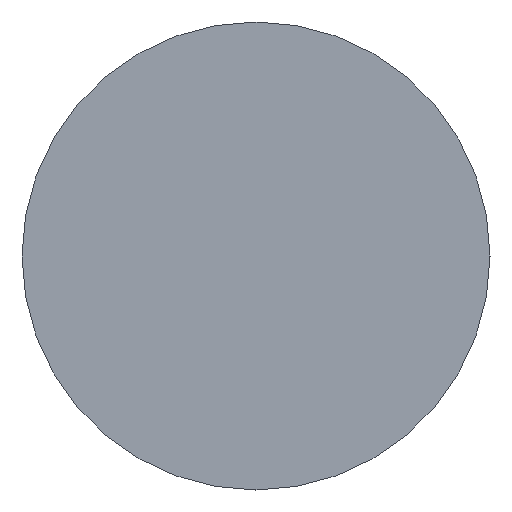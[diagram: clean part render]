
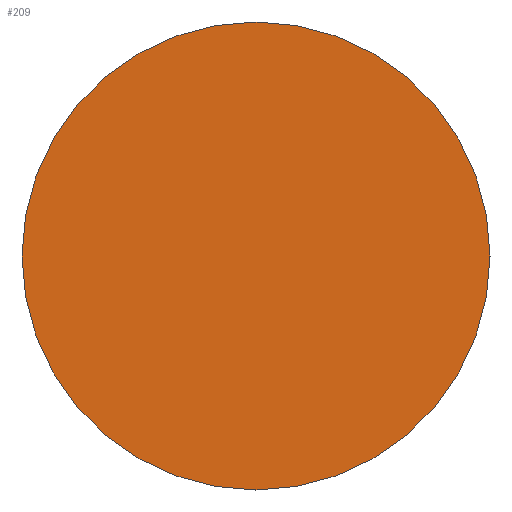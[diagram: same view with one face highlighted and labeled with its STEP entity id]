
A CAD part, left-side view. The second image highlights one B-rep face of the part: STEP entity #209.
In plain terms, the highlighted planar face has unit normal (-1, 0, 0).
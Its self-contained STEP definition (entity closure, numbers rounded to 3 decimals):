
#5 = CARTESIAN_POINT ( 'NONE',  ( 0., 0., 12.5 ) ) ;
#17 = CIRCLE ( 'NONE', #19, 12.5 ) ;
#19 = AXIS2_PLACEMENT_3D ( 'NONE', #20, #21, #22 ) ;
#20 = CARTESIAN_POINT ( 'NONE',  ( 0., 0., 0. ) ) ;
#21 = DIRECTION ( 'NONE',  ( -1., 0., 0. ) ) ;
#22 = DIRECTION ( 'NONE',  ( 0., 0., 1. ) ) ;
#101 = ORIENTED_EDGE ( 'NONE', *, *, #455, .T. ) ;
#190 = EDGE_LOOP ( 'NONE', ( #101, #289 ) ) ;
#209 = ADVANCED_FACE ( 'NONE', ( #366 ), #367, .F. ) ;
#212 = VERTEX_POINT ( 'NONE', #372 ) ;
#246 = CIRCLE ( 'NONE', #247, 12.5 ) ;
#247 = AXIS2_PLACEMENT_3D ( 'NONE', #248, #249, #250 ) ;
#248 = CARTESIAN_POINT ( 'NONE',  ( 0., 0., 0. ) ) ;
#249 = DIRECTION ( 'NONE',  ( -1., 0., 0. ) ) ;
#250 = DIRECTION ( 'NONE',  ( 0., 0., 1. ) ) ;
#289 = ORIENTED_EDGE ( 'NONE', *, *, #501, .T. ) ;
#366 = FACE_OUTER_BOUND ( 'NONE', #190, .T. ) ;
#367 = PLANE ( 'NONE',  #368 ) ;
#368 = AXIS2_PLACEMENT_3D ( 'NONE', #369, #370, #371 ) ;
#369 = CARTESIAN_POINT ( 'NONE',  ( 0., 12.5, 0. ) ) ;
#370 = DIRECTION ( 'NONE',  ( 1., 0., 0. ) ) ;
#371 = DIRECTION ( 'NONE',  ( 0., 0., -1. ) ) ;
#372 = CARTESIAN_POINT ( 'NONE',  ( 0., 0., -12.5 ) ) ;
#399 = VERTEX_POINT ( 'NONE', #5 ) ;
#455 = EDGE_CURVE ( 'NONE', #399, #212, #17, .T. ) ;
#501 = EDGE_CURVE ( 'NONE', #212, #399, #246, .T. ) ;
